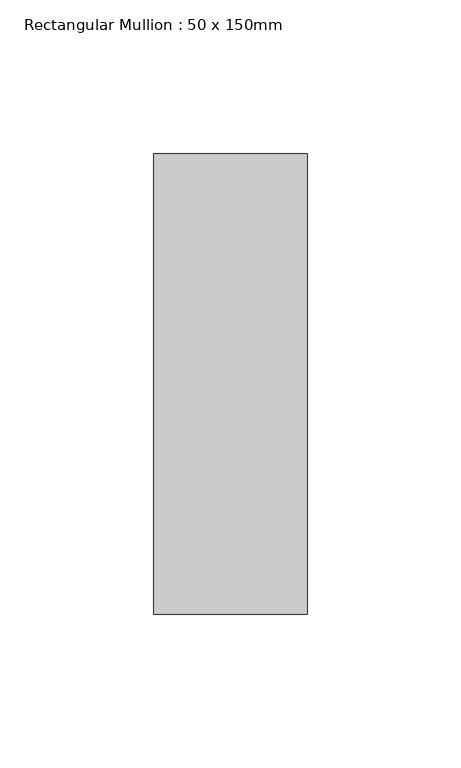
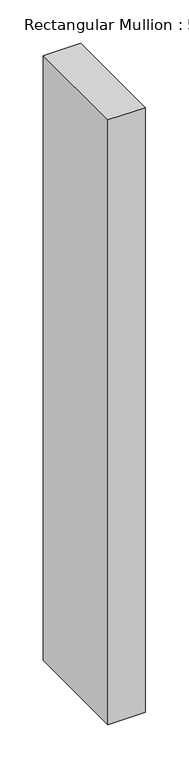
"""IFC4 building model written with IfcOpenShell, lengths in millimetres: member geometry, Rectangular Mullion : 50 x 150mm."""

from ifc_helpers import new_model, si_unit, frame, origin, place, context, project, spatial, polyline, outline, extrude, source, transform, mapped, element, save


def rectangular_mullion_50_x_150mm_64002b5b(model_context):
    return source(origin(), model_context, "Body", "SweptSolid", [
        extrude(outline(polyline([(25.0, 75.0), (25.0, -75.0), (-25.0, -75.0), (-25.0, 75.0), (25.0, 75.0)])), frame((0.0, 0.0, -855.0), z_axis=(0.0, 0.0, 1.0), x_axis=(1.0, 0.0, 0.0)), (0.0, 0.0, 1.0), 855.0),
    ])


if __name__ == "__main__":
    model = new_model("IFC4")
    model_context = context("Model", 3, world=origin())
    ifc_project = project(units=[si_unit("LENGTHUNIT", "METRE", prefix="MILLI")], contexts=[model_context])
    site = spatial("IfcSite", under=ifc_project)
    building = spatial("IfcBuilding", under=site)
    placement = place(None, origin())
    rectangular_mullion_50_x_150mm_shape = rectangular_mullion_50_x_150mm_64002b5b(model_context)
    element("IfcMember", 1, ObjectType="Rectangular Mullion : 50 x 150mm", at=placement, inside=building, context=model_context, shape_type="MappedRepresentation", body=[
        mapped(rectangular_mullion_50_x_150mm_shape, transform((0.0, 0.0, 0.0), x_axis=(1.0, 0.0, 0.0), y_axis=(0.0, 1.0, 0.0), z_axis=(0.0, 0.0, 1.0))),
    ])
    save(model, "model.ifc")
